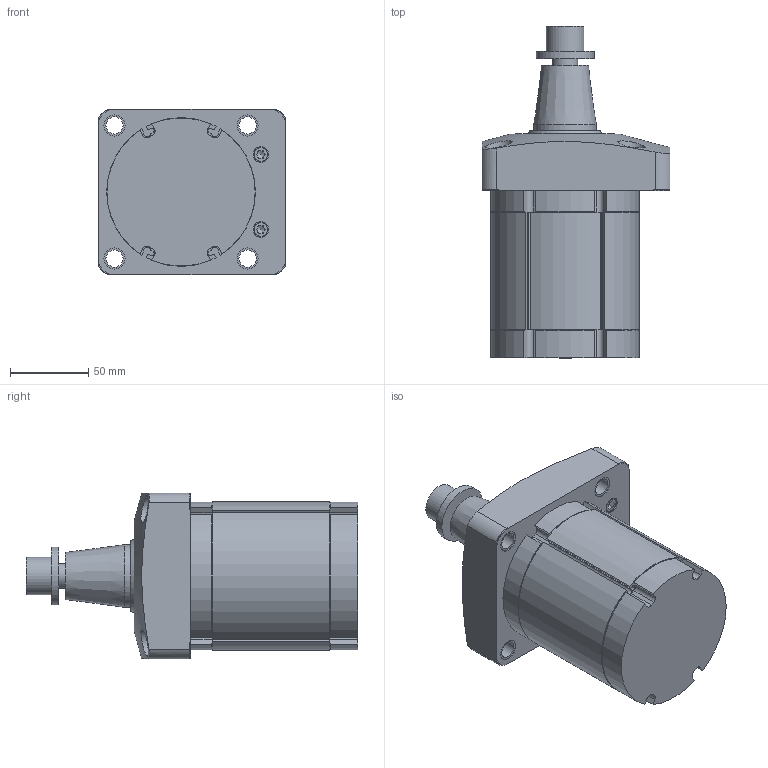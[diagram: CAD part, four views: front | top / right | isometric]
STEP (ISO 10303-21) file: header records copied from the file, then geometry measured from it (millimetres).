
FILE_DESCRIPTION( ( '' ), '1' );
FILE_NAME( 'W:/Catalogue/JSM/jsm63-29/jsm63-29.stp', '2008-05-26T02:58:38', ( '機械事業部産業機器グループ' ), ( '豊和工業株式会社' ), 'XStep 1.0', ' ', ' ' );
FILE_SCHEMA( ( 'CONFIG_CONTROL_DESIGN' ) );
Length unit declared in the file: millimetre
Products named in the file (7): Assem1; 1; 2; 3; 4; 5; 6
Bounding box: 120 x 212 x 106 mm (x, y, z)
Volume: 2238032.1 mm3; surface area: 305653.5 mm2
Topology: 14 solids, 16 shells, 538 faces, 1342 edges, 884 vertices
Faces by surface type: plane 326, cylinder 170, cone 40, torus 2
Full cylindrical faces by diameter (mm): 8.3 x4, 10 x4, 11 x8, 13.5 x8, 14.5 x4, 16 x4, 17 x2, 17.5 x8, 24 x2, 37 x2, 40 x4, 40.15 x2, 42 x2, 47 x2, 52 x4, 63 x6
Entity records: 8060 total; most frequent: CARTESIAN_POINT 1853, DIRECTION 1259, ORIENTED_EDGE 1108, EDGE_CURVE 554, AXIS2_PLACEMENT_3D 457, VERTEX_POINT 396, EDGE_LOOP 345, LINE 345
